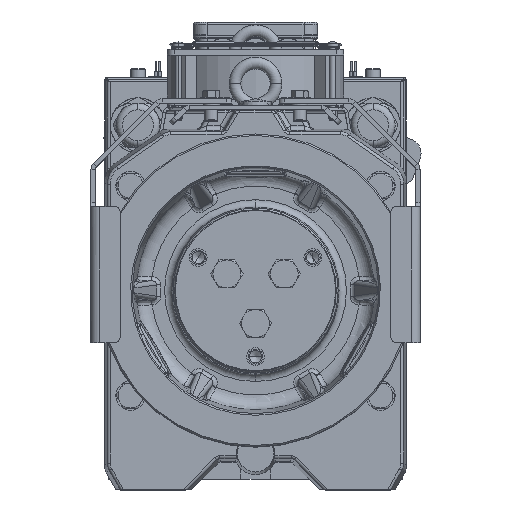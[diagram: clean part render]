
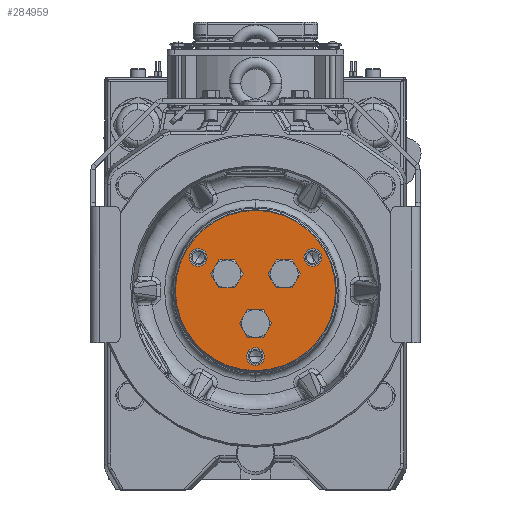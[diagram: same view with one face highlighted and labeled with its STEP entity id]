
A CAD part, top view. The second image highlights one B-rep face of the part: STEP entity #284959.
In plain terms, the highlighted planar face has unit normal (0, 0, 1) as drawn and (0, -1, 0) by its records, which use the part's own axes.
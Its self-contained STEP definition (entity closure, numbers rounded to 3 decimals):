
#284616=CARTESIAN_POINT('',(0.,0.,
0.));
#284617=DIRECTION('',(0.,-1.,0.));
#284618=DIRECTION('',(-1.,0.,0.));
#284619=AXIS2_PLACEMENT_3D('',#284616,#284617,#284618);
#284621=CARTESIAN_POINT('',(0.,0.,
0.));
#284622=DIRECTION('',(0.,-1.,0.));
#284623=DIRECTION('',(1.,0.,0.));
#284624=AXIS2_PLACEMENT_3D('',#284621,#284622,#284623);
#284626=CARTESIAN_POINT('',(0.,0.,-22.5));
#284627=DIRECTION('',(0.,-1.,0.));
#284628=DIRECTION('',(1.,0.,0.));
#284629=AXIS2_PLACEMENT_3D('',#284626,#284627,#284628);
#284631=CARTESIAN_POINT('',(0.,0.,-22.5));
#284632=DIRECTION('',(0.,-1.,0.));
#284633=DIRECTION('',(-1.,0.,0.));
#284634=AXIS2_PLACEMENT_3D('',#284631,#284632,#284633);
#284636=CARTESIAN_POINT('',(19.486,0.,11.25));
#284637=DIRECTION('',(0.,-1.,0.));
#284638=DIRECTION('',(-0.5,0.,0.866));
#284639=AXIS2_PLACEMENT_3D('',#284636,#284637,#284638);
#284641=CARTESIAN_POINT('',(19.486,0.,11.25));
#284642=DIRECTION('',(0.,-1.,0.));
#284643=DIRECTION('',(0.5,0.,-0.866));
#284644=AXIS2_PLACEMENT_3D('',#284641,#284642,#284643);
#284646=CARTESIAN_POINT('',(-19.486,0.,11.25));
#284647=DIRECTION('',(0.,-1.,0.));
#284648=DIRECTION('',(-0.5,0.,-0.866));
#284649=AXIS2_PLACEMENT_3D('',#284646,#284647,#284648);
#284651=CARTESIAN_POINT('',(-19.486,0.,11.25));
#284652=DIRECTION('',(0.,-1.,0.));
#284653=DIRECTION('',(0.5,0.,0.866));
#284654=AXIS2_PLACEMENT_3D('',#284651,#284652,#284653);
#284656=CARTESIAN_POINT('',(0.,0.,-45.));
#284657=DIRECTION('',(0.,-1.,0.));
#284658=DIRECTION('',(1.,0.,0.));
#284659=AXIS2_PLACEMENT_3D('',#284656,#284657,#284658);
#284661=CARTESIAN_POINT('',(0.,0.,-45.));
#284662=DIRECTION('',(0.,-1.,0.));
#284663=DIRECTION('',(-1.,0.,0.));
#284664=AXIS2_PLACEMENT_3D('',#284661,#284662,#284663);
#284666=CARTESIAN_POINT('',(38.971,0.,22.5));
#284667=DIRECTION('',(0.,-1.,0.));
#284668=DIRECTION('',(-0.5,0.,0.866));
#284669=AXIS2_PLACEMENT_3D('',#284666,#284667,#284668);
#284671=CARTESIAN_POINT('',(38.971,0.,22.5));
#284672=DIRECTION('',(0.,-1.,0.));
#284673=DIRECTION('',(0.5,0.,-0.866));
#284674=AXIS2_PLACEMENT_3D('',#284671,#284672,#284673);
#284676=CARTESIAN_POINT('',(-38.971,0.,22.5));
#284677=DIRECTION('',(0.,-1.,0.));
#284678=DIRECTION('',(-0.5,0.,-0.866));
#284679=AXIS2_PLACEMENT_3D('',#284676,#284677,#284678);
#284681=CARTESIAN_POINT('',(-38.971,0.,22.5));
#284682=DIRECTION('',(0.,-1.,0.));
#284683=DIRECTION('',(0.5,0.,0.866));
#284684=AXIS2_PLACEMENT_3D('',#284681,#284682,#284683);
#284860=CARTESIAN_POINT('',(6.5,0.,-22.5));
#284861=CARTESIAN_POINT('',(-6.5,0.,-22.5));
#284862=VERTEX_POINT('',#284860);
#284863=VERTEX_POINT('',#284861);
#284868=CARTESIAN_POINT('',(16.236,0.,16.879));
#284869=CARTESIAN_POINT('',(22.736,0.,5.621));
#284870=VERTEX_POINT('',#284868);
#284871=VERTEX_POINT('',#284869);
#284876=CARTESIAN_POINT('',(-22.736,0.,5.621));
#284877=CARTESIAN_POINT('',(-16.236,0.,16.879));
#284878=VERTEX_POINT('',#284876);
#284879=VERTEX_POINT('',#284877);
#284884=CARTESIAN_POINT('',(6.,0.,-45.));
#284885=CARTESIAN_POINT('',(-6.,0.,-45.));
#284886=VERTEX_POINT('',#284884);
#284887=VERTEX_POINT('',#284885);
#284892=CARTESIAN_POINT('',(35.971,0.,27.696));
#284893=CARTESIAN_POINT('',(41.971,0.,17.304));
#284894=VERTEX_POINT('',#284892);
#284895=VERTEX_POINT('',#284893);
#284900=CARTESIAN_POINT('',(-41.971,0.,17.304));
#284901=CARTESIAN_POINT('',(-35.971,0.,27.696));
#284902=VERTEX_POINT('',#284900);
#284903=VERTEX_POINT('',#284901);
#284908=CARTESIAN_POINT('',(-54.5,0.,0.));
#284909=CARTESIAN_POINT('',(54.5,0.,0.));
#284910=VERTEX_POINT('',#284908);
#284911=VERTEX_POINT('',#284909);
#284912=CARTESIAN_POINT('',(0.,0.,0.));
#284913=DIRECTION('',(0.,-1.,0.));
#284914=DIRECTION('',(-1.,0.,0.));
#284915=AXIS2_PLACEMENT_3D('',#284912,#284913,#284914);
#284916=PLANE('',#284915);
#284918=ORIENTED_EDGE('',*,*,#284917,.F.);
#284920=ORIENTED_EDGE('',*,*,#284919,.F.);
#284921=EDGE_LOOP('',(#284918,#284920));
#284922=FACE_OUTER_BOUND('',#284921,.F.);
#284924=ORIENTED_EDGE('',*,*,#284923,.T.);
#284926=ORIENTED_EDGE('',*,*,#284925,.T.);
#284927=EDGE_LOOP('',(#284924,#284926));
#284928=FACE_BOUND('',#284927,.F.);
#284930=ORIENTED_EDGE('',*,*,#284929,.T.);
#284932=ORIENTED_EDGE('',*,*,#284931,.T.);
#284933=EDGE_LOOP('',(#284930,#284932));
#284934=FACE_BOUND('',#284933,.F.);
#284936=ORIENTED_EDGE('',*,*,#284935,.T.);
#284938=ORIENTED_EDGE('',*,*,#284937,.T.);
#284939=EDGE_LOOP('',(#284936,#284938));
#284940=FACE_BOUND('',#284939,.F.);
#284942=ORIENTED_EDGE('',*,*,#284941,.T.);
#284944=ORIENTED_EDGE('',*,*,#284943,.T.);
#284945=EDGE_LOOP('',(#284942,#284944));
#284946=FACE_BOUND('',#284945,.F.);
#284948=ORIENTED_EDGE('',*,*,#284947,.T.);
#284950=ORIENTED_EDGE('',*,*,#284949,.T.);
#284951=EDGE_LOOP('',(#284948,#284950));
#284952=FACE_BOUND('',#284951,.F.);
#284954=ORIENTED_EDGE('',*,*,#284953,.T.);
#284956=ORIENTED_EDGE('',*,*,#284955,.T.);
#284957=EDGE_LOOP('',(#284954,#284956));
#284958=FACE_BOUND('',#284957,.F.);
#284959=ADVANCED_FACE('',(#284922,#284928,#284934,#284940,#284946,#284952,
#284958),#284916,.T.);
#284620=CIRCLE('',#284619,54.5);
#284625=CIRCLE('',#284624,54.5);
#284630=CIRCLE('',#284629,6.5);
#284635=CIRCLE('',#284634,6.5);
#284640=CIRCLE('',#284639,6.5);
#284645=CIRCLE('',#284644,6.5);
#284650=CIRCLE('',#284649,6.5);
#284655=CIRCLE('',#284654,6.5);
#284660=CIRCLE('',#284659,6.);
#284665=CIRCLE('',#284664,6.);
#284670=CIRCLE('',#284669,6.);
#284675=CIRCLE('',#284674,6.);
#284680=CIRCLE('',#284679,6.);
#284685=CIRCLE('',#284684,6.);
#284917=EDGE_CURVE('',#284910,#284911,#284620,.T.);
#284919=EDGE_CURVE('',#284911,#284910,#284625,.T.);
#284923=EDGE_CURVE('',#284862,#284863,#284630,.T.);
#284925=EDGE_CURVE('',#284863,#284862,#284635,.T.);
#284929=EDGE_CURVE('',#284870,#284871,#284640,.T.);
#284931=EDGE_CURVE('',#284871,#284870,#284645,.T.);
#284935=EDGE_CURVE('',#284878,#284879,#284650,.T.);
#284937=EDGE_CURVE('',#284879,#284878,#284655,.T.);
#284941=EDGE_CURVE('',#284886,#284887,#284660,.T.);
#284943=EDGE_CURVE('',#284887,#284886,#284665,.T.);
#284947=EDGE_CURVE('',#284894,#284895,#284670,.T.);
#284949=EDGE_CURVE('',#284895,#284894,#284675,.T.);
#284953=EDGE_CURVE('',#284902,#284903,#284680,.T.);
#284955=EDGE_CURVE('',#284903,#284902,#284685,.T.);
